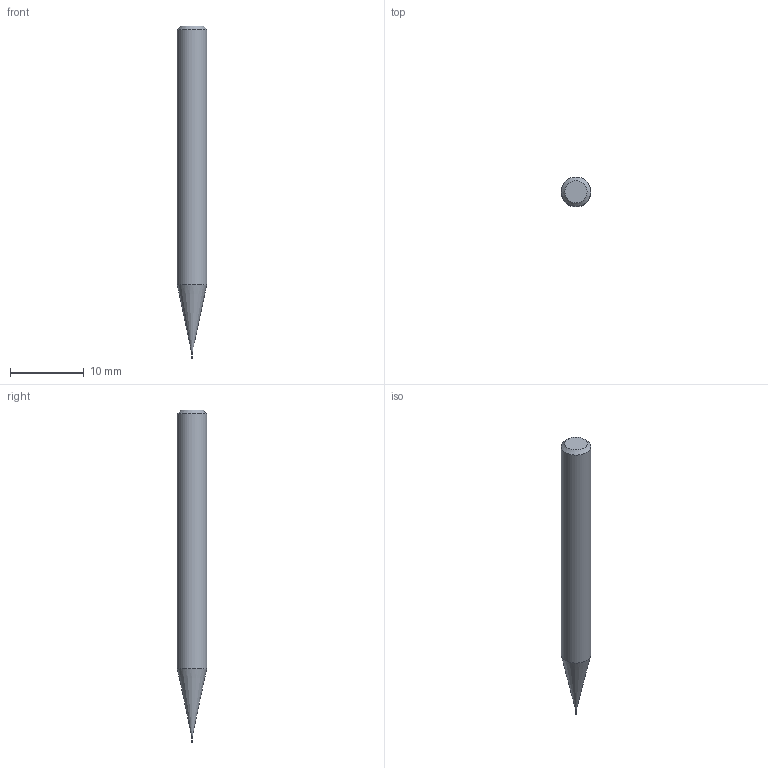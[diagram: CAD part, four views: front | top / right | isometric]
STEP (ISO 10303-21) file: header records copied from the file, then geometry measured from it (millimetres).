
FILE_DESCRIPTION((''),'2;1');
FILE_NAME('C:\Users\nsx150\AppData\Local\Temp\Mastercam 2021\RJ5U8K7RMU\TEMP.step','2021-04-21T16:39:10',(''),(''),'STEP Write','Mastercam 2021 ... CNC Software, Inc.','');
FILE_SCHEMA(('AUTOMOTIVE_DESIGN'));
Length unit declared in the file: millimetre
Products named in the file (1): None
Bounding box: 4 x 4 x 45 mm (x, y, z)
Volume: 478.3 mm3; surface area: 509.5 mm2
Topology: 2 solids, 2 shells, 9 faces, 12 edges, 7 vertices
Faces by surface type: plane 4, cylinder 3, cone 2
Full cylindrical faces by diameter (mm): 0.085 x1, 0.1 x1, 4 x1
Entity records: 211 total; most frequent: DIRECTION 36, CARTESIAN_POINT 25, AXIS2_PLACEMENT_3D 18, ORIENTED_EDGE 14, EDGE_LOOP 14, STYLED_ITEM 12, ADVANCED_FACE 9, FACE_BOUND 8
